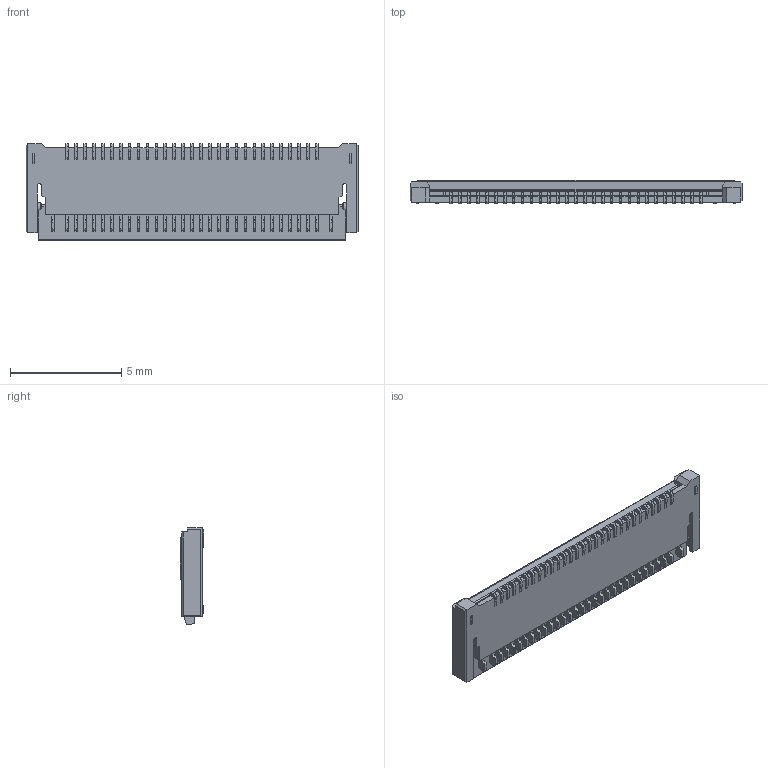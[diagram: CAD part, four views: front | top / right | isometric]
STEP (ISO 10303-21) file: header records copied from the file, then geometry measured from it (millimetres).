
FILE_DESCRIPTION (( 'STEP AP203' ), '1' );
FILE_NAME ('FFX2S-58A-R21CL-xx (close).STEP', '2010-11-03T05:05:14', ( '' ), ( '' ), 'SwSTEP 2.0', 'SolidWorks 2010', '' );
FILE_SCHEMA (( 'CONFIG_CONTROL_DESIGN' ));
Length unit declared in the file: millimetre
Products named in the file (1): FFX2S-58A-R21CL-xx (close)
Bounding box: 14.9 x 1.07 x 4.35 mm (x, y, z)
Volume: 42.3 mm3; surface area: 253.6 mm2
Topology: 1 solids, 1 shells, 1633 faces, 4956 edges, 3299 vertices
Faces by surface type: plane 1151, cylinder 479, cone 3
Entity records: 55574 total; most frequent: CARTESIAN_POINT 10107, ORIENTED_EDGE 9912, DIRECTION 9067, EDGE_CURVE 4956, VECTOR 3985, LINE 3985, VERTEX_POINT 3299, AXIS2_PLACEMENT_3D 2541
